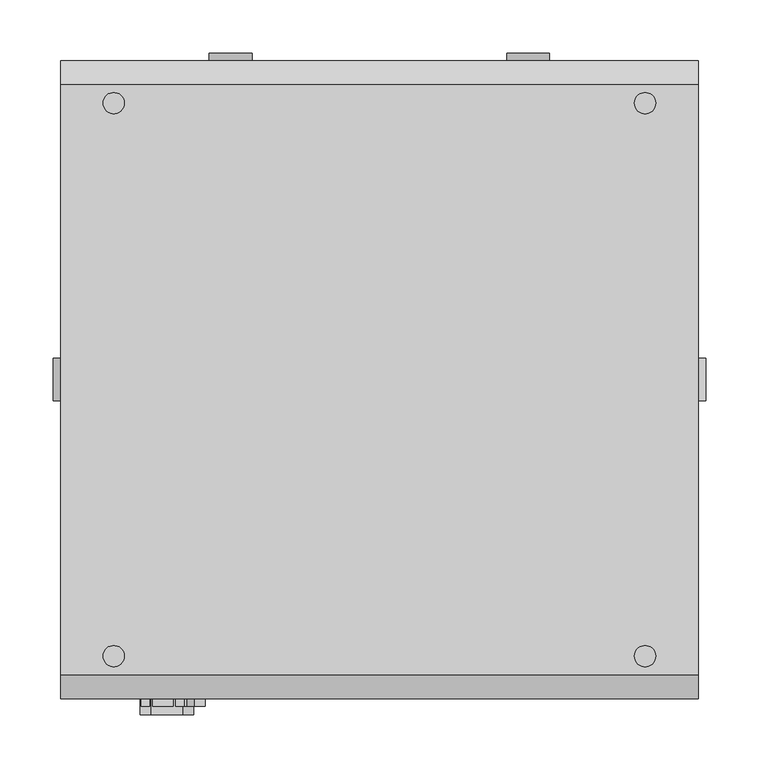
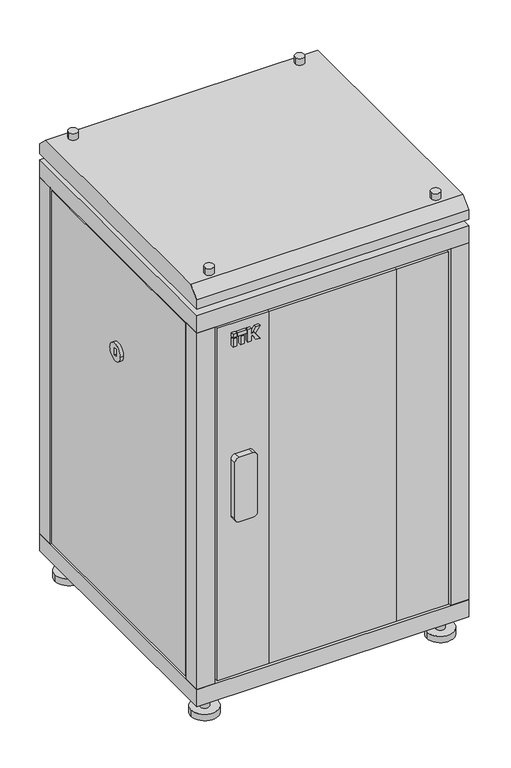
"""IFC4 building model written with IfcOpenShell, lengths in millimetres: proxy geometry, Шкафы ITK серия N_05 : LN05-18U66-G."""

from ifc_helpers import new_model, si_unit, point, frame, frame_2d, origin, origin_with_axes, place, context, project, spatial, polyline, circle_curve, trimmed, segment, composite_curve, outline, extrude, faceted_brep, source, transform, mapped, element, save
from ifc_brep_helpers import plane_surface, cylinder_surface, advanced_brep


def electrical_fixtures_c305319c(model_context):
    return source(origin(), model_context, "Body", "SolidModel", [
        extrude(outline(polyline([(-215.9746193, -307.0), (-224.197592, -307.0), (-224.197592, -300.0), (-215.9746193, -300.0), (-215.9746193, -307.0)])), frame((0.0, 0.0, 867.0), z_axis=(0.0, 0.0, 1.0), x_axis=(1.0, 0.0, 0.0)), (0.0, 0.0, 1.0), 18.8087618),
        extrude(outline(polyline([(-199.9605777, -307.0), (-207.7053315, -307.0), (-207.7053315, -300.0), (-199.9605777, -300.0), (-199.9605777, -307.0)])), frame((0.0, 0.0, 867.0), z_axis=(0.0, 0.0, 1.0), x_axis=(1.0, 0.0, 0.0)), (0.0, 0.0, 1.0), 18.8087618),
        extrude(outline(polyline([(-215.9746193, -307.0), (-224.197592, -307.0), (-224.197592, -300.0), (-215.9746193, -300.0), (-215.9746193, -307.0)])), frame((0.0, 0.0, 888.4305892), z_axis=(0.0, 0.0, 1.0), x_axis=(1.0, 0.0, 0.0)), (0.0, 0.0, 1.0), 7.9794747),
        extrude(outline(polyline([(867.0, -191.5184175), (867.0, -183.7669278), (878.0271455, -183.7669278), (878.0271455, -180.8031229), (867.0, -173.6420108), (867.0, -164.197592), (881.7278745, -174.8980192), (896.410064, -164.197592), (896.410064, -173.6420108), (885.3829184, -180.8031229), (885.3829184, -183.7669278), (896.410064, -183.7669278), (896.410064, -191.5184175), (867.0, -191.5184175)])), frame((0.0, -307.0, 0.0), z_axis=(0.0, 1.0, 0.0), x_axis=(0.0, 0.0, 1.0)), (0.0, 0.0, 1.0), 7.0),
        extrude(outline(polyline([(-194.0851324, -307.0), (-213.5807768, -307.0), (-213.5807768, -300.0), (-194.0851324, -300.0), (-194.0851324, -307.0)])), frame((0.0, 0.0, 888.4305892), z_axis=(0.0, 0.0, 1.0), x_axis=(1.0, 0.0, 0.0)), (0.0, 0.0, 1.0), 7.9794747),
        extrude(outline(composite_curve([segment(polyline([(611.0, -185.0), (611.0, -215.0)]), True, "CONTINUOUS"), segment(trimmed(circle_curve(frame_2d((601.0, -215.0)), 10.0), [point((611.0, -215.0))], [point((601.0, -225.0))], False, "CARTESIAN"), True, "CONTINUOUS"), segment(polyline([(601.0, -225.0), (471.0, -225.0)]), True, "CONTINUOUS"), segment(trimmed(circle_curve(frame_2d((471.0, -215.0)), 10.0), [point((471.0, -225.0))], [point((461.0, -215.0))], False, "CARTESIAN"), True, "CONTINUOUS"), segment(polyline([(461.0, -215.0), (461.0, -185.0)]), True, "CONTINUOUS"), segment(trimmed(circle_curve(frame_2d((471.0, -185.0)), 10.0), [point((461.0, -185.0))], [point((471.0, -175.0))], False, "CARTESIAN"), True, "CONTINUOUS"), segment(polyline([(471.0, -175.0), (601.0, -175.0)]), True, "CONTINUOUS"), segment(trimmed(circle_curve(frame_2d((601.0, -185.0)), 10.0), [point((601.0, -175.0))], [point((611.0, -185.0))], False, "CARTESIAN"), True, "CONTINUOUS")], self_intersect=False)), frame((0.0, -315.0, 0.0), z_axis=(0.0, 1.0, 0.0), x_axis=(0.0, 0.0, 1.0)), (0.0, 0.0, 1.0), 15.0),
        extrude(outline(polyline([(140.0, -280.0), (140.0, -300.0), (-140.0, -300.0), (-140.0, -280.0), (140.0, -280.0)])), frame((0.0, 0.0, 95.0), z_axis=(0.0, 0.0, 1.0), x_axis=(1.0, 0.0, 0.0)), (0.0, 0.0, 1.0), 822.0),
        extrude(outline(polyline([(255.0, -280.0), (255.0, -300.0), (140.0, -300.0), (140.0, -280.0), (235.0, -280.0), (235.0, -265.0), (245.0, -265.0), (245.0, -280.0), (255.0, -280.0)])), frame((0.0, 0.0, 95.0), z_axis=(0.0, 0.0, 1.0), x_axis=(1.0, 0.0, 0.0)), (0.0, 0.0, 1.0), 822.0),
        extrude(outline(polyline([(-140.0, -300.0), (-255.0, -300.0), (-255.0, -280.0), (-245.0, -280.0), (-245.0, -265.0), (-235.0, -265.0), (-235.0, -280.0), (-140.0, -280.0), (-140.0, -300.0)])), frame((0.0, 0.0, 95.0), z_axis=(0.0, 0.0, 1.0), x_axis=(1.0, 0.0, 0.0)), (0.0, 0.0, 1.0), 822.0),
        extrude(outline(composite_curve([segment(trimmed(circle_curve(frame_2d((-260.0, 260.0)), 10.0), [point((-250.0, 260.0))], [point((-270.0, 260.0))], False, "CARTESIAN"), True, "CONTINUOUS"), segment(trimmed(circle_curve(frame_2d((-260.0, 260.0)), 10.0), [point((-270.0, 260.0))], [point((-250.0, 260.0))], False, "CARTESIAN"), True, "CONTINUOUS")], self_intersect=False)), frame((0.0, 0.0, 15.0), z_axis=(0.0, 0.0, 1.0), x_axis=(1.0, 0.0, 0.0)), (0.0, 0.0, 1.0), 35.0),
        extrude(outline(composite_curve([segment(trimmed(circle_curve(frame_2d((260.0, 260.0)), 10.0), [point((270.0, 260.0))], [point((250.0, 260.0))], False, "CARTESIAN"), True, "CONTINUOUS"), segment(trimmed(circle_curve(frame_2d((260.0, 260.0)), 10.0), [point((250.0, 260.0))], [point((270.0, 260.0))], False, "CARTESIAN"), True, "CONTINUOUS")], self_intersect=False)), frame((0.0, 0.0, 15.0), z_axis=(0.0, 0.0, 1.0), x_axis=(1.0, 0.0, 0.0)), (0.0, 0.0, 1.0), 35.0),
        extrude(outline(composite_curve([segment(trimmed(circle_curve(frame_2d((-260.0, -260.0)), 10.0), [point((-250.0, -260.0))], [point((-270.0, -260.0))], False, "CARTESIAN"), True, "CONTINUOUS"), segment(trimmed(circle_curve(frame_2d((-260.0, -260.0)), 10.0), [point((-270.0, -260.0))], [point((-250.0, -260.0))], False, "CARTESIAN"), True, "CONTINUOUS")], self_intersect=False)), frame((0.0, 0.0, 15.0), z_axis=(0.0, 0.0, 1.0), x_axis=(1.0, 0.0, 0.0)), (0.0, 0.0, 1.0), 35.0),
        extrude(outline(composite_curve([segment(trimmed(circle_curve(frame_2d((260.0, -260.0)), 10.0), [point((270.0, -260.0))], [point((250.0, -260.0))], False, "CARTESIAN"), True, "CONTINUOUS"), segment(trimmed(circle_curve(frame_2d((260.0, -260.0)), 10.0), [point((250.0, -260.0))], [point((270.0, -260.0))], False, "CARTESIAN"), True, "CONTINUOUS")], self_intersect=False)), frame((0.0, 0.0, 15.0), z_axis=(0.0, 0.0, 1.0), x_axis=(1.0, 0.0, 0.0)), (0.0, 0.0, 1.0), 35.0),
        extrude(outline(composite_curve([segment(trimmed(circle_curve(frame_2d((-260.0, 260.0)), 30.0), [point((-230.0, 260.0))], [point((-290.0, 260.0))], False, "CARTESIAN"), True, "CONTINUOUS"), segment(trimmed(circle_curve(frame_2d((-260.0, 260.0)), 30.0), [point((-290.0, 260.0))], [point((-230.0, 260.0))], False, "CARTESIAN"), True, "CONTINUOUS")], self_intersect=False)), origin_with_axes(), (0.0, 0.0, 1.0), 15.0),
        extrude(outline(composite_curve([segment(trimmed(circle_curve(frame_2d((260.0, 260.0)), 30.0), [point((290.0, 260.0))], [point((230.0, 260.0))], False, "CARTESIAN"), True, "CONTINUOUS"), segment(trimmed(circle_curve(frame_2d((260.0, 260.0)), 30.0), [point((230.0, 260.0))], [point((290.0, 260.0))], False, "CARTESIAN"), True, "CONTINUOUS")], self_intersect=False)), origin_with_axes(), (0.0, 0.0, 1.0), 15.0),
        extrude(outline(composite_curve([segment(trimmed(circle_curve(frame_2d((-260.0, -260.0)), 30.0), [point((-230.0, -260.0))], [point((-290.0, -260.0))], False, "CARTESIAN"), True, "CONTINUOUS"), segment(trimmed(circle_curve(frame_2d((-260.0, -260.0)), 30.0), [point((-290.0, -260.0))], [point((-230.0, -260.0))], False, "CARTESIAN"), True, "CONTINUOUS")], self_intersect=False)), origin_with_axes(), (0.0, 0.0, 1.0), 15.0),
        extrude(outline(composite_curve([segment(trimmed(circle_curve(frame_2d((260.0, -260.0)), 30.0), [point((290.0, -260.0))], [point((230.0, -260.0))], False, "CARTESIAN"), True, "CONTINUOUS"), segment(trimmed(circle_curve(frame_2d((260.0, -260.0)), 30.0), [point((230.0, -260.0))], [point((290.0, -260.0))], False, "CARTESIAN"), True, "CONTINUOUS")], self_intersect=False)), origin_with_axes(), (0.0, 0.0, 1.0), 15.0),
        advanced_brep(
        [(260.0, 260.0, 1037.0), (240.0, 260.0, 1037.0), (260.0, -260.0, 1037.0), (240.0, -260.0, 1037.0), (-240.0, 260.0, 1037.0), (-260.0, 260.0, 1037.0), (-240.0, -260.0, 1037.0), (-260.0, -260.0, 1037.0), (260.0, 260.0, 962.0), (240.0, 260.0, 962.0), (260.0, -260.0, 962.0), (240.0, -260.0, 962.0), (-240.0, 260.0, 962.0), (-260.0, 260.0, 962.0), (-240.0, -260.0, 962.0), (-260.0, -260.0, 962.0), (260.0, 260.0, 1022.0), (240.0, 260.0, 1022.0), (240.0, 260.0, 977.0), (260.0, 260.0, 977.0), (260.0, -260.0, 1022.0), (240.0, -260.0, 1022.0), (240.0, -260.0, 977.0), (260.0, -260.0, 977.0), (-240.0, 260.0, 1022.0), (-260.0, 260.0, 1022.0), (-260.0, 260.0, 977.0), (-240.0, 260.0, 977.0), (-240.0, -260.0, 1022.0), (-260.0, -260.0, 1022.0), (-260.0, -260.0, 977.0), (-240.0, -260.0, 977.0), (300.0, 277.5, 1022.0), (300.0, -277.5, 1022.0), (300.0, -300.0, 999.5), (300.0, -300.0, 977.0), (300.0, 300.0, 977.0), (300.0, 300.0, 999.5), (-300.0, 277.5, 1022.0), (-300.0, 300.0, 999.5), (-300.0, 300.0, 977.0), (-300.0, -300.0, 977.0), (-300.0, -300.0, 999.5), (-300.0, -277.5, 1022.0)],
        [
            (0, 1, circle_curve(frame((250.0, 260.0, 1037.0), z_axis=(0.0, 0.0, 1.0), x_axis=(-1.0, 0.0, 0.0)), 10.0)),
            (1, 0, circle_curve(frame((250.0, 260.0, 1037.0), z_axis=(0.0, 0.0, 1.0), x_axis=(-1.0, 0.0, 0.0)), 10.0)),
            (2, 3, circle_curve(frame((250.0, -260.0, 1037.0), z_axis=(0.0, 0.0, 1.0), x_axis=(-1.0, 0.0, 0.0)), 10.0)),
            (3, 2, circle_curve(frame((250.0, -260.0, 1037.0), z_axis=(0.0, 0.0, 1.0), x_axis=(-1.0, 0.0, 0.0)), 10.0)),
            (4, 5, circle_curve(frame((-250.0, 260.0, 1037.0), z_axis=(0.0, 0.0, 1.0), x_axis=(-1.0, 0.0, 0.0)), 10.0)),
            (5, 4, circle_curve(frame((-250.0, 260.0, 1037.0), z_axis=(0.0, 0.0, 1.0), x_axis=(-1.0, 0.0, 0.0)), 10.0)),
            (6, 7, circle_curve(frame((-250.0, -260.0, 1037.0), z_axis=(0.0, 0.0, 1.0), x_axis=(-1.0, 0.0, 0.0)), 10.0)),
            (7, 6, circle_curve(frame((-250.0, -260.0, 1037.0), z_axis=(0.0, 0.0, 1.0), x_axis=(-1.0, 0.0, 0.0)), 10.0)),
            (8, 9, circle_curve(frame((250.0, 260.0, 962.0), z_axis=(0.0, 0.0, -1.0), x_axis=(-1.0, 0.0, 0.0)), 10.0)),
            (9, 8, circle_curve(frame((250.0, 260.0, 962.0), z_axis=(0.0, 0.0, -1.0), x_axis=(-1.0, 0.0, 0.0)), 10.0)),
            (10, 11, circle_curve(frame((250.0, -260.0, 962.0), z_axis=(0.0, 0.0, -1.0), x_axis=(-1.0, 0.0, 0.0)), 10.0)),
            (11, 10, circle_curve(frame((250.0, -260.0, 962.0), z_axis=(0.0, 0.0, -1.0), x_axis=(-1.0, 0.0, 0.0)), 10.0)),
            (12, 13, circle_curve(frame((-250.0, 260.0, 962.0), z_axis=(0.0, 0.0, -1.0), x_axis=(-1.0, 0.0, 0.0)), 10.0)),
            (13, 12, circle_curve(frame((-250.0, 260.0, 962.0), z_axis=(0.0, 0.0, -1.0), x_axis=(-1.0, 0.0, 0.0)), 10.0)),
            (14, 15, circle_curve(frame((-250.0, -260.0, 962.0), z_axis=(0.0, 0.0, -1.0), x_axis=(-1.0, 0.0, 0.0)), 10.0)),
            (15, 14, circle_curve(frame((-250.0, -260.0, 962.0), z_axis=(0.0, 0.0, -1.0), x_axis=(-1.0, 0.0, 0.0)), 10.0)),
            (0, 16),
            (16, 17, circle_curve(frame((250.0, 260.0, 1022.0), z_axis=(0.0, 0.0, 1.0), x_axis=(-1.0, 0.0, 0.0)), 10.0)),
            (17, 1),
            (9, 18),
            (18, 19, circle_curve(frame((250.0, 260.0, 977.0), z_axis=(0.0, 0.0, -1.0), x_axis=(-1.0, 0.0, 0.0)), 10.0)),
            (19, 8),
            (17, 16, circle_curve(frame((250.0, 260.0, 1022.0), z_axis=(0.0, 0.0, 1.0), x_axis=(-1.0, 0.0, 0.0)), 10.0)),
            (19, 18, circle_curve(frame((250.0, 260.0, 977.0), z_axis=(0.0, 0.0, -1.0), x_axis=(-1.0, 0.0, 0.0)), 10.0)),
            (2, 20),
            (20, 21, circle_curve(frame((250.0, -260.0, 1022.0), z_axis=(0.0, 0.0, 1.0), x_axis=(-1.0, 0.0, 0.0)), 10.0)),
            (21, 3),
            (11, 22),
            (22, 23, circle_curve(frame((250.0, -260.0, 977.0), z_axis=(0.0, 0.0, -1.0), x_axis=(-1.0, 0.0, 0.0)), 10.0)),
            (23, 10),
            (21, 20, circle_curve(frame((250.0, -260.0, 1022.0), z_axis=(0.0, 0.0, 1.0), x_axis=(-1.0, 0.0, 0.0)), 10.0)),
            (23, 22, circle_curve(frame((250.0, -260.0, 977.0), z_axis=(0.0, 0.0, -1.0), x_axis=(-1.0, 0.0, 0.0)), 10.0)),
            (4, 24),
            (24, 25, circle_curve(frame((-250.0, 260.0, 1022.0), z_axis=(0.0, 0.0, 1.0), x_axis=(-1.0, 0.0, 0.0)), 10.0)),
            (25, 5),
            (13, 26),
            (26, 27, circle_curve(frame((-250.0, 260.0, 977.0), z_axis=(0.0, 0.0, -1.0), x_axis=(-1.0, 0.0, 0.0)), 10.0)),
            (27, 12),
            (25, 24, circle_curve(frame((-250.0, 260.0, 1022.0), z_axis=(0.0, 0.0, 1.0), x_axis=(-1.0, 0.0, 0.0)), 10.0)),
            (27, 26, circle_curve(frame((-250.0, 260.0, 977.0), z_axis=(0.0, 0.0, -1.0), x_axis=(-1.0, 0.0, 0.0)), 10.0)),
            (6, 28),
            (28, 29, circle_curve(frame((-250.0, -260.0, 1022.0), z_axis=(0.0, 0.0, 1.0), x_axis=(-1.0, 0.0, 0.0)), 10.0)),
            (29, 7),
            (15, 30),
            (30, 31, circle_curve(frame((-250.0, -260.0, 977.0), z_axis=(0.0, 0.0, -1.0), x_axis=(-1.0, 0.0, 0.0)), 10.0)),
            (31, 14),
            (29, 28, circle_curve(frame((-250.0, -260.0, 1022.0), z_axis=(0.0, 0.0, 1.0), x_axis=(-1.0, 0.0, 0.0)), 10.0)),
            (31, 30, circle_curve(frame((-250.0, -260.0, 977.0), z_axis=(0.0, 0.0, -1.0), x_axis=(-1.0, 0.0, 0.0)), 10.0)),
            (32, 33),
            (33, 34),
            (34, 35),
            (35, 36),
            (36, 37),
            (37, 32),
            (38, 39),
            (39, 40),
            (40, 41),
            (41, 42),
            (42, 43),
            (43, 38),
            (32, 38),
            (43, 33),
            (42, 34),
            (41, 35),
            (40, 36),
            (39, 37),
        ],
        [
            plane_surface(frame((240.0, 260.0, 1037.0), z_axis=(0.0, 0.0, 1.0), x_axis=(0.0, -1.0, 0.0))),
            plane_surface(frame((240.0, 260.0, 962.0), z_axis=(0.0, 0.0, -1.0), x_axis=(0.0, 1.0, 0.0))),
            cylinder_surface(frame((250.0, 260.0, 962.0), z_axis=(0.0, 0.0, 1.0), x_axis=(-1.0, 0.0, 0.0)), 10.0),
            cylinder_surface(frame((250.0, -260.0, 1710.0), z_axis=(0.0, 0.0, 1.0), x_axis=(-1.0, 0.0, 0.0)), 10.0),
            cylinder_surface(frame((-250.0, 260.0, 1710.0), z_axis=(0.0, 0.0, 1.0), x_axis=(-1.0, 0.0, 0.0)), 10.0),
            cylinder_surface(frame((-250.0, -260.0, 1710.0), z_axis=(0.0, 0.0, 1.0), x_axis=(-1.0, 0.0, 0.0)), 10.0),
            plane_surface(frame((300.0, -277.5, 1022.0), z_axis=(1.0, 0.0, 0.0), x_axis=(0.0, -1.0, 0.0))),
            plane_surface(frame((-300.0, -277.5, 1022.0), z_axis=(-1.0, 0.0, 0.0), x_axis=(0.0, 1.0, 0.0))),
            plane_surface(frame((300.0, 277.5, 1022.0), z_axis=(0.0, 0.0, 1.0), x_axis=(-1.0, 0.0, 0.0))),
            plane_surface(frame((300.0, -277.5, 1022.0), z_axis=(0.0, -0.7071067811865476, 0.7071067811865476), x_axis=(-1.0, 0.0, 0.0))),
            plane_surface(frame((300.0, -300.0, 999.5), z_axis=(0.0, -1.0, 0.0), x_axis=(-1.0, 0.0, 0.0))),
            plane_surface(frame((300.0, -300.0, 977.0), z_axis=(0.0, 0.0, -1.0), x_axis=(-1.0, 0.0, 0.0))),
            plane_surface(frame((300.0, 300.0, 977.0), z_axis=(0.0, 1.0, 0.0), x_axis=(-1.0, 0.0, 0.0))),
            plane_surface(frame((300.0, 300.0, 999.5), z_axis=(0.0, 0.7071067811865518, 0.7071067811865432), x_axis=(-1.0, 0.0, 0.0))),
        ],
        [
            (0, [[1, 2]]),
            (0, [[3, 4]]),
            (0, [[5, 6]]),
            (0, [[7, 8]]),
            (1, [[9, 10]]),
            (1, [[11, 12]]),
            (1, [[13, 14]]),
            (1, [[15, 16]]),
            (2, [[-1, 17, 18, 19]]),
            (2, [[-10, 20, 21, 22]]),
            (2, [[-2, -19, 23, -17]]),
            (2, [[-9, -22, 24, -20]]),
            (3, [[-3, 25, 26, 27]]),
            (3, [[-12, 28, 29, 30]]),
            (3, [[-4, -27, 31, -25]]),
            (3, [[-11, -30, 32, -28]]),
            (4, [[-5, 33, 34, 35]]),
            (4, [[-14, 36, 37, 38]]),
            (4, [[-6, -35, 39, -33]]),
            (4, [[-13, -38, 40, -36]]),
            (5, [[-7, 41, 42, 43]]),
            (5, [[-16, 44, 45, 46]]),
            (5, [[-8, -43, 47, -41]]),
            (5, [[-15, -46, 48, -44]]),
            (6, [[49, 50, 51, 52, 53, 54]]),
            (7, [[55, 56, 57, 58, 59, 60]]),
            (8, [[-49, 61, -60, 62], [-18, -23], [-26, -31], [-34, -39], [-42, -47]]),
            (9, [[-50, -62, -59, 63]]),
            (10, [[-51, -63, -58, 64]]),
            (11, [[-52, -64, -57, 65], [-21, -24], [-29, -32], [-37, -40], [-45, -48]]),
            (12, [[-53, -65, -56, 66]]),
            (13, [[-54, -66, -55, -61]]),
        ],
    ),
        extrude(outline(polyline([(260.0, 260.0), (260.0, 245.0), (290.0, 245.0), (290.0, -245.0), (260.0, -245.0), (260.0, -260.0), (245.0, -260.0), (245.0, -280.0), (-245.0, -280.0), (-245.0, -260.0), (-260.0, -260.0), (-260.0, -245.0), (-290.0, -245.0), (-290.0, 245.0), (-260.0, 245.0), (-260.0, 260.0), (-245.0, 260.0), (-245.0, 290.0), (245.0, 290.0), (245.0, 260.0), (260.0, 260.0)])), frame((0.0, 0.0, 90.0), z_axis=(0.0, 0.0, 1.0), x_axis=(1.0, 0.0, 0.0)), (0.0, 0.0, 1.0), 5.0),
        extrude(outline(polyline([(260.0, 260.0), (260.0, 245.0), (290.0, 245.0), (290.0, -245.0), (260.0, -245.0), (260.0, -260.0), (245.0, -260.0), (245.0, -280.0), (-245.0, -280.0), (-245.0, -260.0), (-260.0, -260.0), (-260.0, -245.0), (-290.0, -245.0), (-290.0, 245.0), (-260.0, 245.0), (-260.0, 260.0), (-245.0, 260.0), (-245.0, 290.0), (245.0, 290.0), (245.0, 260.0), (260.0, 260.0)])), frame((0.0, 0.0, 917.0), z_axis=(0.0, 0.0, 1.0), x_axis=(1.0, 0.0, 0.0)), (0.0, 0.0, 1.0), 5.0),
        extrude(outline(polyline([(300.0, -300.0), (-300.0, -300.0), (-300.0, 300.0), (300.0, 300.0), (300.0, -300.0)])), frame((0.0, 0.0, 922.0), z_axis=(0.0, 0.0, 1.0), x_axis=(1.0, 0.0, 0.0)), (0.0, 0.0, 1.0), 40.0),
        extrude(outline(polyline([(300.0, -300.0), (-300.0, -300.0), (-300.0, 300.0), (300.0, 300.0), (300.0, -300.0)])), frame((0.0, 0.0, 50.0), z_axis=(0.0, 0.0, 1.0), x_axis=(1.0, 0.0, 0.0)), (0.0, 0.0, 1.0), 40.0),
        extrude(outline(composite_curve([segment(trimmed(circle_curve(frame_2d((506.0, 140.0)), 20.0), [point((506.0, 160.0))], [point((506.0, 120.0))], False, "CARTESIAN"), True, "CONTINUOUS"), segment(trimmed(circle_curve(frame_2d((506.0, 140.0)), 20.0), [point((506.0, 120.0))], [point((506.0, 160.0))], False, "CARTESIAN"), True, "CONTINUOUS")], self_intersect=False), holes=[polyline([(497.7814397, 137.0), (514.2185603, 137.0), (514.2185603, 143.0), (497.7814397, 143.0), (497.7814397, 137.0)])]), frame((0.0, 300.0, 0.0), z_axis=(0.0, 1.0, 0.0), x_axis=(0.0, 0.0, 1.0)), (0.0, 0.0, 1.0), 7.0),
        extrude(outline(composite_curve([segment(trimmed(circle_curve(frame_2d((506.0, -140.0)), 20.0), [point((506.0, -120.0))], [point((506.0, -160.0))], False, "CARTESIAN"), True, "CONTINUOUS"), segment(trimmed(circle_curve(frame_2d((506.0, -140.0)), 20.0), [point((506.0, -160.0))], [point((506.0, -120.0))], False, "CARTESIAN"), True, "CONTINUOUS")], self_intersect=False), holes=[polyline([(497.7814397, -143.0), (514.2185603, -143.0), (514.2185603, -137.0), (497.7814397, -137.0), (497.7814397, -143.0)])]), frame((0.0, 300.0, 0.0), z_axis=(0.0, 1.0, 0.0), x_axis=(0.0, 0.0, 1.0)), (0.0, 0.0, 1.0), 7.0),
        faceted_brep([(255.0, 300.0, 917.0), (-255.0, 300.0, 917.0), (-255.0, 270.0, 917.0), (-245.0, 270.0, 917.0), (-245.0, 290.0, 917.0), (245.0, 290.0, 917.0), (245.0, 270.0, 917.0), (255.0, 270.0, 917.0), (255.0, 300.0, 95.0), (255.0, 270.0, 95.0), (245.0, 270.0, 95.0), (245.0, 290.0, 95.0), (-245.0, 290.0, 95.0), (-245.0, 270.0, 95.0), (-255.0, 270.0, 95.0), (-255.0, 300.0, 95.0), (255.0, 300.0, 744.5265979), (-255.0, 300.0, 744.5265979), (175.0, 300.0, 792.0), (175.0, 300.0, 872.0), (-175.0, 300.0, 872.0), (-175.0, 300.0, 792.0), (-255.0, 300.0, 267.4734021), (255.0, 300.0, 267.4734021), (175.0, 300.0, 220.0), (-175.0, 300.0, 220.0), (-175.0, 300.0, 140.0), (175.0, 300.0, 140.0), (255.0, 300.0, 739.4734021), (255.0, 300.0, 272.5265979), (-255.0, 300.0, 272.5265979), (-255.0, 300.0, 739.4734021), (-170.0, 300.0, 215.0), (170.0, 300.0, 215.0), (170.0, 300.0, 145.0), (-170.0, 300.0, 145.0), (-170.0, 300.0, 797.0), (-170.0, 300.0, 867.0), (170.0, 300.0, 867.0), (170.0, 300.0, 797.0), (-255.0, 293.0, 744.5265979), (-255.0, 293.0, 739.4734021), (-255.0, 293.0, 272.5265979), (-255.0, 293.0, 267.4734021), (255.0, 293.0, 267.4734021), (255.0, 293.0, 272.5265979), (255.0, 293.0, 739.4734021), (255.0, 293.0, 744.5265979), (175.0, 293.0, 220.0), (175.0, 293.0, 140.0), (-175.0, 293.0, 140.0), (-175.0, 293.0, 220.0), (-170.0, 293.0, 215.0), (-170.0, 293.0, 145.0), (170.0, 293.0, 145.0), (170.0, 293.0, 215.0), (175.0, 293.0, 792.0), (-175.0, 293.0, 792.0), (-175.0, 293.0, 872.0), (175.0, 293.0, 872.0), (-170.0, 293.0, 797.0), (170.0, 293.0, 797.0), (170.0, 293.0, 867.0), (-170.0, 293.0, 867.0)], [[[0, 1, 2, 3, 4, 5, 6, 7]], [[8, 9, 10, 11, 12, 13, 14, 15]], [[1, 0, 16, 17], [18, 19, 20, 21]], [[8, 15, 22, 23], [24, 25, 26, 27]], [[28, 29, 30, 31]], [[32, 33, 34, 35]], [[36, 37, 38, 39]], [[2, 1, 17, 40, 41, 31, 30, 42, 43, 22, 15, 14]], [[3, 2, 14, 13]], [[4, 3, 13, 12]], [[5, 4, 12, 11]], [[6, 5, 11, 10]], [[7, 6, 10, 9]], [[0, 7, 9, 8, 23, 44, 45, 29, 28, 46, 47, 16]], [[44, 43, 42, 45]], [[48, 49, 50, 51], [52, 53, 54, 55]], [[46, 41, 40, 47]], [[56, 57, 58, 59], [60, 61, 62, 63]], [[45, 42, 30, 29]], [[43, 44, 23, 22]], [[48, 51, 25, 24]], [[51, 50, 26, 25]], [[50, 49, 27, 26]], [[49, 48, 24, 27]], [[52, 55, 33, 32]], [[55, 54, 34, 33]], [[54, 53, 35, 34]], [[53, 52, 32, 35]], [[47, 40, 17, 16]], [[41, 46, 28, 31]], [[56, 59, 19, 18]], [[59, 58, 20, 19]], [[58, 57, 21, 20]], [[57, 56, 18, 21]], [[60, 63, 37, 36]], [[63, 62, 38, 37]], [[62, 61, 39, 38]], [[61, 60, 36, 39]]]),
        extrude(outline(composite_curve([segment(trimmed(circle_curve(frame_2d((0.0, 698.0)), 20.0), [point((-20.0, 698.0))], [point((20.0, 698.0))], False, "CARTESIAN"), True, "CONTINUOUS"), segment(trimmed(circle_curve(frame_2d((0.0, 698.0)), 20.0), [point((20.0, 698.0))], [point((-20.0, 698.0))], False, "CARTESIAN"), True, "CONTINUOUS")], self_intersect=False), holes=[polyline([(3.0, 689.7814397), (3.0, 706.2185603), (-3.0, 706.2185603), (-3.0, 689.7814397), (3.0, 689.7814397)])]), frame((300.0, 0.0, 0.0), z_axis=(1.0, 0.0, 0.0), x_axis=(0.0, 1.0, 0.0)), (0.0, 0.0, 1.0), 7.0),
        extrude(outline(composite_curve([segment(trimmed(circle_curve(frame_2d((0.0, 698.0)), 20.0), [point((20.0, 698.0))], [point((-20.0, 698.0))], False, "CARTESIAN"), True, "CONTINUOUS"), segment(trimmed(circle_curve(frame_2d((0.0, 698.0)), 20.0), [point((-20.0, 698.0))], [point((20.0, 698.0))], False, "CARTESIAN"), True, "CONTINUOUS")], self_intersect=False), holes=[polyline([(-3.0, 689.7814397), (3.0, 689.7814397), (3.0, 706.2185603), (-3.0, 706.2185603), (-3.0, 689.7814397)])]), frame((-307.0, 0.0, 0.0), z_axis=(1.0, 0.0, 0.0), x_axis=(0.0, 1.0, 0.0)), (0.0, 0.0, 1.0), 7.0),
        extrude(outline(polyline([(-270.0, 255.0), (-270.0, 245.0), (-289.9803177, 245.0), (-289.9803177, -245.0), (-269.9803177, -245.0), (-269.9803177, -255.0), (-300.0, -255.0), (-300.0, 255.0), (-270.0, 255.0)])), frame((0.0, 0.0, 95.0), z_axis=(0.0, 0.0, 1.0), x_axis=(1.0, 0.0, 0.0)), (0.0, 0.0, 1.0), 822.0),
        extrude(outline(polyline([(269.9803177, 255.0), (300.0, 255.0), (300.0, -255.0), (269.9803177, -255.0), (269.9803177, -245.0), (289.9803177, -245.0), (289.9803177, 245.0), (269.9803177, 245.0), (269.9803177, 255.0)])), frame((0.0, 0.0, 95.0), z_axis=(0.0, 0.0, 1.0), x_axis=(1.0, 0.0, 0.0)), (0.0, 0.0, 1.0), 822.0),
        extrude(outline(polyline([(-270.0, -260.0), (-270.0, -245.0), (-260.0, -245.0), (-260.0, -260.0), (-245.0, -260.0), (-245.0, -280.0), (-260.0, -280.0), (-260.0, -300.0), (-300.0, -300.0), (-300.0, -260.0), (-270.0, -260.0)]), holes=[polyline([(-267.0, -263.0), (-297.0, -263.0), (-297.0, -297.0), (-263.0, -297.0), (-263.0, -277.0), (-248.0, -277.0), (-248.0, -263.0), (-263.0, -263.0), (-263.0, -248.0), (-267.0, -248.0), (-267.0, -263.0)])]), frame((0.0, 0.0, 90.0), z_axis=(0.0, 0.0, 1.0), x_axis=(1.0, 0.0, 0.0)), (0.0, 0.0, 1.0), 832.0),
        extrude(outline(polyline([(270.0, -260.0), (300.0, -260.0), (300.0, -300.0), (260.0, -300.0), (260.0, -280.0), (245.0, -280.0), (245.0, -260.0), (260.0, -260.0), (260.0, -245.0), (270.0, -245.0), (270.0, -260.0)]), holes=[polyline([(297.0, -297.0), (297.0, -263.0), (267.0, -263.0), (267.0, -248.0), (263.0, -248.0), (263.0, -263.0), (248.0, -263.0), (248.0, -277.0), (263.0, -277.0), (263.0, -297.0), (297.0, -297.0)])]), frame((0.0, 0.0, 90.0), z_axis=(0.0, 0.0, 1.0), x_axis=(1.0, 0.0, 0.0)), (0.0, 0.0, 1.0), 832.0),
        extrude(outline(polyline([(270.0, 260.0), (270.0, 245.0), (260.0, 245.0), (260.0, 260.0), (245.0, 260.0), (245.0, 270.0), (260.0, 270.0), (260.0, 300.0), (300.0, 300.0), (300.0, 260.0), (270.0, 260.0)]), holes=[polyline([(297.0, 263.0), (297.0, 297.0), (263.0, 297.0), (263.0, 267.0), (248.0, 267.0), (248.0, 263.0), (263.0, 263.0), (263.0, 248.0), (267.0, 248.0), (267.0, 263.0), (297.0, 263.0)])]), frame((0.0, 0.0, 90.0), z_axis=(0.0, 0.0, 1.0), x_axis=(1.0, 0.0, 0.0)), (0.0, 0.0, 1.0), 832.0),
        extrude(outline(polyline([(-270.0, 260.0), (-300.0, 260.0), (-300.0, 300.0), (-260.0, 300.0), (-260.0, 270.0), (-245.0, 270.0), (-245.0, 260.0), (-260.0, 260.0), (-260.0, 245.0), (-270.0, 245.0), (-270.0, 260.0)]), holes=[polyline([(-297.0, 297.0), (-297.0, 263.0), (-267.0, 263.0), (-267.0, 248.0), (-263.0, 248.0), (-263.0, 263.0), (-248.0, 263.0), (-248.0, 267.0), (-263.0, 267.0), (-263.0, 297.0), (-297.0, 297.0)])]), frame((0.0, 0.0, 90.0), z_axis=(0.0, 0.0, 1.0), x_axis=(1.0, 0.0, 0.0)), (0.0, 0.0, 1.0), 832.0),
    ])


if __name__ == "__main__":
    model = new_model("IFC4")
    model_context = context("Model", 3, world=origin())
    ifc_project = project(units=[si_unit("LENGTHUNIT", "METRE", prefix="MILLI")], contexts=[model_context])
    site = spatial("IfcSite", under=ifc_project)
    building = spatial("IfcBuilding", under=site)
    placement = place(None, origin())
    electrical_fixtures_shape = electrical_fixtures_c305319c(model_context)
    element("IfcBuildingElementProxy", 1, Name="Шкафы ITK серия N_05 : LN05-18U66-G", ObjectType="Шкафы ITK серия N_05 : LN05-18U66-G", at=placement, inside=building, context=model_context, shape_type="MappedRepresentation", body=[
        mapped(electrical_fixtures_shape, transform((0.0, 0.0, 0.0), x_axis=(1.0, 0.0, 0.0), y_axis=(0.0, 1.0, 0.0), z_axis=(0.0, 0.0, 1.0))),
    ])
    save(model, "model.ifc")
